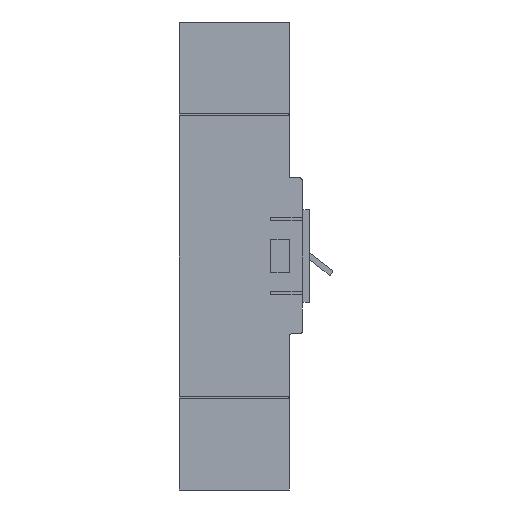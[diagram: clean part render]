
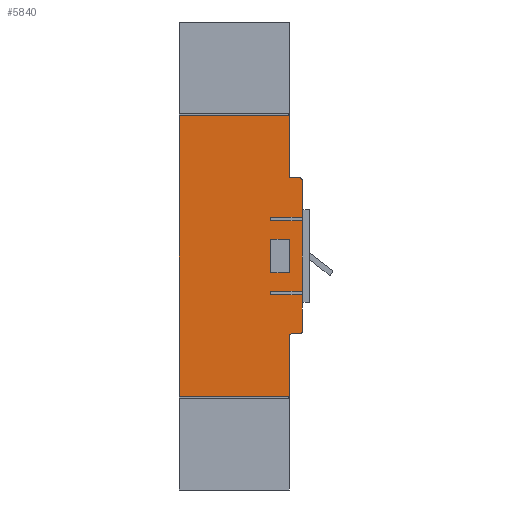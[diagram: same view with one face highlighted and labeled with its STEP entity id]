
A CAD part, left-side view. The second image highlights one B-rep face of the part: STEP entity #5840.
In plain terms, the highlighted planar face has unit normal (-1, 0, 0).
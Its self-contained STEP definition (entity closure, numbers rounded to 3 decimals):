
#226=FACE_BOUND('',#710,.T.);
#255=CIRCLE('',#6162,1.);
#256=CIRCLE('',#6163,1.);
#257=CIRCLE('',#6164,1.);
#258=CIRCLE('',#6165,1.);
#390=FACE_OUTER_BOUND('',#709,.T.);
#709=EDGE_LOOP('',(#3912,#3913,#3914,#3915,#3916,#3917,#3918,#3919,#3920,
#3921,#3922,#3923,#3924,#3925,#3926,#3927,#3928,#3929,#3930,#3931));
#710=EDGE_LOOP('',(#3932,#3933,#3934,#3935));
#1044=LINE('',#7845,#1724);
#1048=LINE('',#7853,#1728);
#1051=LINE('',#7859,#1731);
#1055=LINE('',#7868,#1735);
#1059=LINE('',#7876,#1739);
#1062=LINE('',#7882,#1742);
#1066=LINE('',#7891,#1746);
#1070=LINE('',#7899,#1750);
#1073=LINE('',#7905,#1753);
#1076=LINE('',#7910,#1756);
#1078=LINE('',#7914,#1758);
#1079=LINE('',#7916,#1759);
#1080=LINE('',#7920,#1760);
#1081=LINE('',#7924,#1761);
#1082=LINE('',#7926,#1762);
#1083=LINE('',#7928,#1763);
#1084=LINE('',#7930,#1764);
#1085=LINE('',#7932,#1765);
#1086=LINE('',#7936,#1766);
#1087=LINE('',#7939,#1767);
#1724=VECTOR('',#6489,17.);
#1728=VECTOR('',#6495,2.);
#1731=VECTOR('',#6500,17.);
#1735=VECTOR('',#6508,17.);
#1739=VECTOR('',#6514,2.);
#1742=VECTOR('',#6519,17.);
#1746=VECTOR('',#6527,10.);
#1750=VECTOR('',#6533,18.4);
#1753=VECTOR('',#6538,10.);
#1756=VECTOR('',#6543,18.4);
#1758=VECTOR('',#6549,38.4);
#1759=VECTOR('',#6550,20.3);
#1760=VECTOR('',#6553,5.);
#1761=VECTOR('',#6556,33.);
#1762=VECTOR('',#6557,60.);
#1763=VECTOR('',#6558,153.);
#1764=VECTOR('',#6559,60.);
#1765=VECTOR('',#6560,33.);
#1766=VECTOR('',#6563,5.);
#1767=VECTOR('',#6566,20.3);
#2404=VERTEX_POINT('',#7843);
#2405=VERTEX_POINT('',#7844);
#2408=VERTEX_POINT('',#7852);
#2410=VERTEX_POINT('',#7858);
#2412=VERTEX_POINT('',#7866);
#2413=VERTEX_POINT('',#7867);
#2416=VERTEX_POINT('',#7875);
#2418=VERTEX_POINT('',#7881);
#2420=VERTEX_POINT('',#7889);
#2421=VERTEX_POINT('',#7890);
#2424=VERTEX_POINT('',#7898);
#2426=VERTEX_POINT('',#7904);
#2428=VERTEX_POINT('',#7915);
#2429=VERTEX_POINT('',#7917);
#2430=VERTEX_POINT('',#7919);
#2431=VERTEX_POINT('',#7921);
#2432=VERTEX_POINT('',#7923);
#2433=VERTEX_POINT('',#7925);
#2434=VERTEX_POINT('',#7927);
#2435=VERTEX_POINT('',#7929);
#2436=VERTEX_POINT('',#7931);
#2437=VERTEX_POINT('',#7933);
#2438=VERTEX_POINT('',#7935);
#2439=VERTEX_POINT('',#7937);
#2988=EDGE_CURVE('',#2404,#2405,#1044,.T.);
#2992=EDGE_CURVE('',#2408,#2404,#1048,.T.);
#2995=EDGE_CURVE('',#2410,#2408,#1051,.T.);
#2999=EDGE_CURVE('',#2412,#2413,#1055,.T.);
#3003=EDGE_CURVE('',#2416,#2412,#1059,.T.);
#3006=EDGE_CURVE('',#2418,#2416,#1062,.T.);
#3010=EDGE_CURVE('',#2420,#2421,#1066,.T.);
#3014=EDGE_CURVE('',#2424,#2420,#1070,.T.);
#3017=EDGE_CURVE('',#2426,#2424,#1073,.T.);
#3020=EDGE_CURVE('',#2421,#2426,#1076,.T.);
#3022=EDGE_CURVE('',#2418,#2405,#1078,.T.);
#3023=EDGE_CURVE('',#2428,#2413,#1079,.T.);
#3024=EDGE_CURVE('',#2429,#2428,#255,.T.);
#3025=EDGE_CURVE('',#2430,#2429,#1080,.T.);
#3026=EDGE_CURVE('',#2431,#2430,#256,.T.);
#3027=EDGE_CURVE('',#2432,#2431,#1081,.T.);
#3028=EDGE_CURVE('',#2432,#2433,#1082,.T.);
#3029=EDGE_CURVE('',#2434,#2433,#1083,.T.);
#3030=EDGE_CURVE('',#2434,#2435,#1084,.T.);
#3031=EDGE_CURVE('',#2436,#2435,#1085,.T.);
#3032=EDGE_CURVE('',#2437,#2436,#257,.T.);
#3033=EDGE_CURVE('',#2438,#2437,#1086,.T.);
#3034=EDGE_CURVE('',#2439,#2438,#258,.T.);
#3035=EDGE_CURVE('',#2410,#2439,#1087,.T.);
#3912=ORIENTED_EDGE('',*,*,#2995,.T.);
#3913=ORIENTED_EDGE('',*,*,#2992,.T.);
#3914=ORIENTED_EDGE('',*,*,#2988,.T.);
#3915=ORIENTED_EDGE('',*,*,#3022,.F.);
#3916=ORIENTED_EDGE('',*,*,#3006,.T.);
#3917=ORIENTED_EDGE('',*,*,#3003,.T.);
#3918=ORIENTED_EDGE('',*,*,#2999,.T.);
#3919=ORIENTED_EDGE('',*,*,#3023,.F.);
#3920=ORIENTED_EDGE('',*,*,#3024,.F.);
#3921=ORIENTED_EDGE('',*,*,#3025,.F.);
#3922=ORIENTED_EDGE('',*,*,#3026,.F.);
#3923=ORIENTED_EDGE('',*,*,#3027,.F.);
#3924=ORIENTED_EDGE('',*,*,#3028,.T.);
#3925=ORIENTED_EDGE('',*,*,#3029,.F.);
#3926=ORIENTED_EDGE('',*,*,#3030,.T.);
#3927=ORIENTED_EDGE('',*,*,#3031,.F.);
#3928=ORIENTED_EDGE('',*,*,#3032,.F.);
#3929=ORIENTED_EDGE('',*,*,#3033,.F.);
#3930=ORIENTED_EDGE('',*,*,#3034,.F.);
#3931=ORIENTED_EDGE('',*,*,#3035,.F.);
#3932=ORIENTED_EDGE('',*,*,#3010,.T.);
#3933=ORIENTED_EDGE('',*,*,#3020,.T.);
#3934=ORIENTED_EDGE('',*,*,#3017,.T.);
#3935=ORIENTED_EDGE('',*,*,#3014,.T.);
#5617=PLANE('',#6161);
#5840=ADVANCED_FACE('',(#390,#226),#5617,.F.);
#6161=AXIS2_PLACEMENT_3D('',#7913,#6547,#6548);
#6162=AXIS2_PLACEMENT_3D('',#7918,#6551,#6552);
#6163=AXIS2_PLACEMENT_3D('',#7922,#6554,#6555);
#6164=AXIS2_PLACEMENT_3D('',#7934,#6561,#6562);
#6165=AXIS2_PLACEMENT_3D('',#7938,#6564,#6565);
#6489=DIRECTION('',(0.,-1.,0.));
#6495=DIRECTION('',(0.,0.,1.));
#6500=DIRECTION('',(0.,1.,0.));
#6508=DIRECTION('',(0.,-1.,0.));
#6514=DIRECTION('',(0.,0.,1.));
#6519=DIRECTION('',(0.,1.,0.));
#6527=DIRECTION('',(0.,-1.,0.));
#6533=DIRECTION('',(0.,0.,1.));
#6538=DIRECTION('',(0.,1.,0.));
#6543=DIRECTION('',(0.,0.,-1.));
#6547=DIRECTION('center_axis',(1.,0.,0.));
#6548=DIRECTION('ref_axis',(0.,0.,1.));
#6549=DIRECTION('',(0.,0.,-1.));
#6550=DIRECTION('',(0.,0.,-1.));
#6551=DIRECTION('center_axis',(1.,0.,0.));
#6552=DIRECTION('ref_axis',(0.,-0.707,0.707));
#6553=DIRECTION('',(0.,-1.,0.));
#6554=DIRECTION('center_axis',(-1.,0.,0.));
#6555=DIRECTION('ref_axis',(0.,0.707,-0.707));
#6556=DIRECTION('',(0.,0.,-1.));
#6557=DIRECTION('',(0.,1.,0.));
#6558=DIRECTION('',(0.,0.,1.));
#6559=DIRECTION('',(0.,-1.,0.));
#6560=DIRECTION('',(0.,0.,-1.));
#6561=DIRECTION('center_axis',(-1.,0.,0.));
#6562=DIRECTION('ref_axis',(0.,0.707,0.707));
#6563=DIRECTION('',(0.,1.,0.));
#6564=DIRECTION('center_axis',(1.,0.,0.));
#6565=DIRECTION('ref_axis',(0.,-0.707,-0.707));
#6566=DIRECTION('',(0.,0.,-1.));
#7843=CARTESIAN_POINT('',(0.,100.864,-3.798));
#7844=CARTESIAN_POINT('',(0.,83.864,-3.798));
#7845=CARTESIAN_POINT('',(0.,107.762,-3.798));
#7852=CARTESIAN_POINT('',(0.,100.864,-5.798));
#7853=CARTESIAN_POINT('',(0.,100.864,4.632));
#7858=CARTESIAN_POINT('',(0.,83.864,-5.798));
#7859=CARTESIAN_POINT('',(0.,99.262,-5.798));
#7866=CARTESIAN_POINT('',(0.,100.864,36.602));
#7867=CARTESIAN_POINT('',(0.,83.864,36.602));
#7868=CARTESIAN_POINT('',(0.,107.762,36.602));
#7875=CARTESIAN_POINT('',(0.,100.864,34.602));
#7876=CARTESIAN_POINT('',(0.,100.864,24.832));
#7881=CARTESIAN_POINT('',(0.,83.864,34.602));
#7882=CARTESIAN_POINT('',(0.,99.262,34.602));
#7889=CARTESIAN_POINT('',(0.,100.864,24.602));
#7890=CARTESIAN_POINT('',(0.,90.864,24.602));
#7891=CARTESIAN_POINT('',(0.,107.762,24.602));
#7898=CARTESIAN_POINT('',(0.,100.864,6.202));
#7899=CARTESIAN_POINT('',(0.,100.864,10.632));
#7904=CARTESIAN_POINT('',(0.,90.864,6.202));
#7905=CARTESIAN_POINT('',(0.,102.762,6.202));
#7910=CARTESIAN_POINT('',(0.,90.864,19.832));
#7913=CARTESIAN_POINT('Origin',(0.,114.661,15.062));
#7914=CARTESIAN_POINT('',(0.,83.864,57.902));
#7915=CARTESIAN_POINT('',(0.,83.864,56.902));
#7916=CARTESIAN_POINT('',(0.,83.864,57.902));
#7917=CARTESIAN_POINT('',(0.,84.864,57.902));
#7918=CARTESIAN_POINT('Origin',(0.,84.864,56.902));
#7919=CARTESIAN_POINT('',(0.,89.864,57.902));
#7920=CARTESIAN_POINT('',(0.,90.864,57.902));
#7921=CARTESIAN_POINT('',(0.,90.864,58.902));
#7922=CARTESIAN_POINT('Origin',(0.,89.864,58.902));
#7923=CARTESIAN_POINT('',(0.,90.864,91.902));
#7924=CARTESIAN_POINT('',(0.,90.864,92.902));
#7925=CARTESIAN_POINT('',(0.,150.864,91.902));
#7926=CARTESIAN_POINT('',(0.,132.762,91.902));
#7927=CARTESIAN_POINT('',(0.,150.864,-61.098));
#7928=CARTESIAN_POINT('',(0.,150.864,-62.098));
#7929=CARTESIAN_POINT('',(0.,90.864,-61.098));
#7930=CARTESIAN_POINT('',(0.,132.762,-61.098));
#7931=CARTESIAN_POINT('',(0.,90.864,-28.098));
#7932=CARTESIAN_POINT('',(0.,90.864,-27.098));
#7933=CARTESIAN_POINT('',(0.,89.864,-27.098));
#7934=CARTESIAN_POINT('Origin',(0.,89.864,-28.098));
#7935=CARTESIAN_POINT('',(0.,84.864,-27.098));
#7936=CARTESIAN_POINT('',(0.,83.864,-27.098));
#7937=CARTESIAN_POINT('',(0.,83.864,-26.098));
#7938=CARTESIAN_POINT('Origin',(0.,84.864,-26.098));
#7939=CARTESIAN_POINT('',(0.,83.864,57.902));
